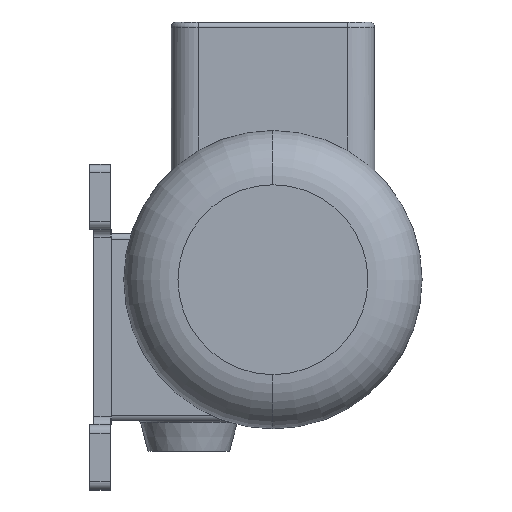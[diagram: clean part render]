
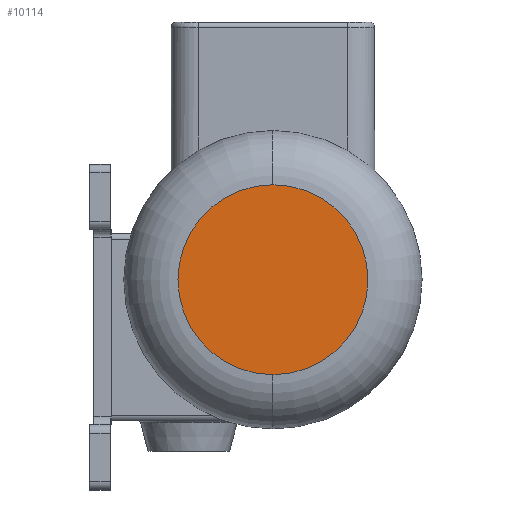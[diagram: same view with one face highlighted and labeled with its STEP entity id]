
A CAD part, left-side view. The second image highlights one B-rep face of the part: STEP entity #10114.
In plain terms, the highlighted planar face has unit normal (-1, 0, 0).
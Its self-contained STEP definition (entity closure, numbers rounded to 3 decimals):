
#655 = DIRECTION ( 'NONE',  ( 1., 0., 0. ) ) ;
#832 = FACE_OUTER_BOUND ( 'NONE', #8012, .T. ) ;
#968 = VERTEX_POINT ( 'NONE', #7451 ) ;
#1109 = DIRECTION ( 'NONE',  ( 0., 0., -1. ) ) ;
#1926 = CARTESIAN_POINT ( 'NONE',  ( 0., 0., 35. ) ) ;
#2206 = CIRCLE ( 'NONE', #8971, 35. ) ;
#2645 = AXIS2_PLACEMENT_3D ( 'NONE', #6653, #655, #4468 ) ;
#2854 = DIRECTION ( 'NONE',  ( -1., 0., 0. ) ) ;
#3098 = AXIS2_PLACEMENT_3D ( 'NONE', #4191, #10797, #8798 ) ;
#3275 = EDGE_CURVE ( 'NONE', #10887, #968, #2206, .T. ) ;
#3900 = ORIENTED_EDGE ( 'NONE', *, *, #3275, .T. ) ;
#4191 = CARTESIAN_POINT ( 'NONE',  ( 0., 0., 0. ) ) ;
#4468 = DIRECTION ( 'NONE',  ( 0., 0., -1. ) ) ;
#6653 = CARTESIAN_POINT ( 'NONE',  ( 0., 0., 0. ) ) ;
#7110 = ORIENTED_EDGE ( 'NONE', *, *, #11926, .T. ) ;
#7451 = CARTESIAN_POINT ( 'NONE',  ( 0., 0., -35. ) ) ;
#8012 = EDGE_LOOP ( 'NONE', ( #7110, #3900 ) ) ;
#8461 = CIRCLE ( 'NONE', #3098, 35. ) ;
#8798 = DIRECTION ( 'NONE',  ( 0., 0., -1. ) ) ;
#8971 = AXIS2_PLACEMENT_3D ( 'NONE', #10594, #2854, #1109 ) ;
#9260 = PLANE ( 'NONE',  #2645 ) ;
#10114 = ADVANCED_FACE ( 'NONE', ( #832 ), #9260, .F. ) ;
#10594 = CARTESIAN_POINT ( 'NONE',  ( 0., 0., 0. ) ) ;
#10797 = DIRECTION ( 'NONE',  ( -1., 0., 0. ) ) ;
#10887 = VERTEX_POINT ( 'NONE', #1926 ) ;
#11926 = EDGE_CURVE ( 'NONE', #968, #10887, #8461, .T. ) ;
